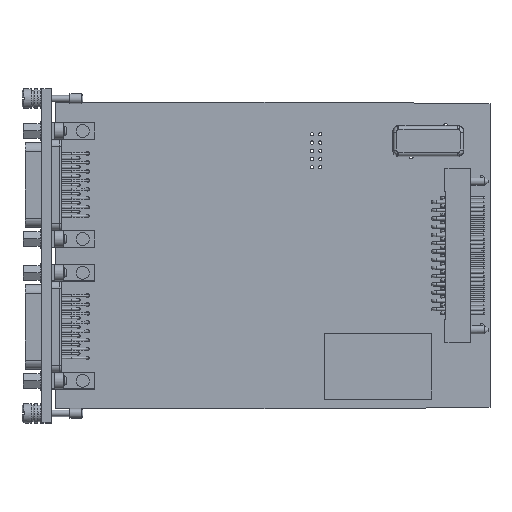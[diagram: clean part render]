
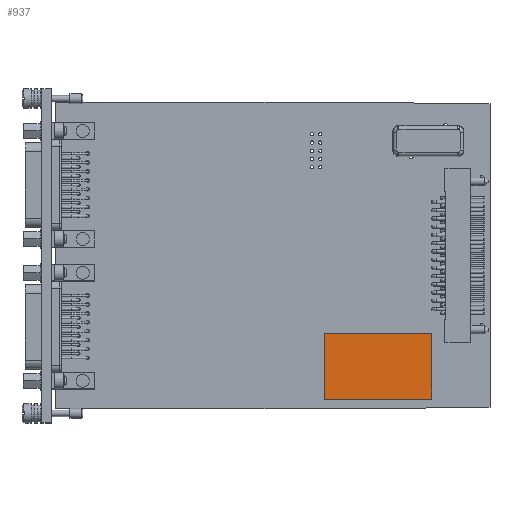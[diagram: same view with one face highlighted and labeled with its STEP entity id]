
A CAD part, top view. The second image highlights one B-rep face of the part: STEP entity #937.
In plain terms, the highlighted planar face has unit normal (0, 0, 1).
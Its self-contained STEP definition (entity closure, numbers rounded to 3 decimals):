
#937=ADVANCED_FACE('',(#18227),#18229,.F.);
#18227=FACE_BOUND('',#18228,.T.);
#18228=EDGE_LOOP('',(#32579,#32580,#32581,#32582));
#18229=PLANE('',#18230);
#18230=AXIS2_PLACEMENT_3D('',#18231,#18232,#18233);
#18231=CARTESIAN_POINT('',(116.04,23.29,10.7));
#18232=DIRECTION('',(0.,0.,-1.));
#18233=DIRECTION('',(-1.,0.,0.));
#32579=ORIENTED_EDGE('',*,*,#41226,.T.);
#32580=ORIENTED_EDGE('',*,*,#41232,.T.);
#32581=ORIENTED_EDGE('',*,*,#41230,.T.);
#32582=ORIENTED_EDGE('',*,*,#41228,.T.);
#41226=EDGE_CURVE('',#45600,#45598,#45601,.T.);
#41228=EDGE_CURVE('',#45603,#45600,#45604,.T.);
#41230=EDGE_CURVE('',#45606,#45603,#45607,.T.);
#41232=EDGE_CURVE('',#45598,#45606,#45609,.T.);
#45598=VERTEX_POINT('',#53315);
#45600=VERTEX_POINT('',#53319);
#45601=LINE('',#53320,#53321);
#45603=VERTEX_POINT('',#53326);
#45604=LINE('',#53327,#53328);
#45606=VERTEX_POINT('',#53333);
#45607=LINE('',#53334,#53335);
#45609=LINE('',#53340,#53341);
#53315=CARTESIAN_POINT('',(83.02,23.29,10.7));
#53319=CARTESIAN_POINT('',(116.04,23.29,10.7));
#53320=CARTESIAN_POINT('',(116.04,23.29,10.7));
#53321=VECTOR('',#53322,1.);
#53322=DIRECTION('',(-1.,0.,0.));
#53326=CARTESIAN_POINT('',(116.04,2.97,10.7));
#53327=CARTESIAN_POINT('',(116.04,2.97,10.7));
#53328=VECTOR('',#53329,1.);
#53329=DIRECTION('',(0.,1.,0.));
#53333=CARTESIAN_POINT('',(83.02,2.97,10.7));
#53334=CARTESIAN_POINT('',(83.02,2.97,10.7));
#53335=VECTOR('',#53336,1.);
#53336=DIRECTION('',(1.,0.,0.));
#53340=CARTESIAN_POINT('',(83.02,23.29,10.7));
#53341=VECTOR('',#53342,1.);
#53342=DIRECTION('',(0.,-1.,0.));
